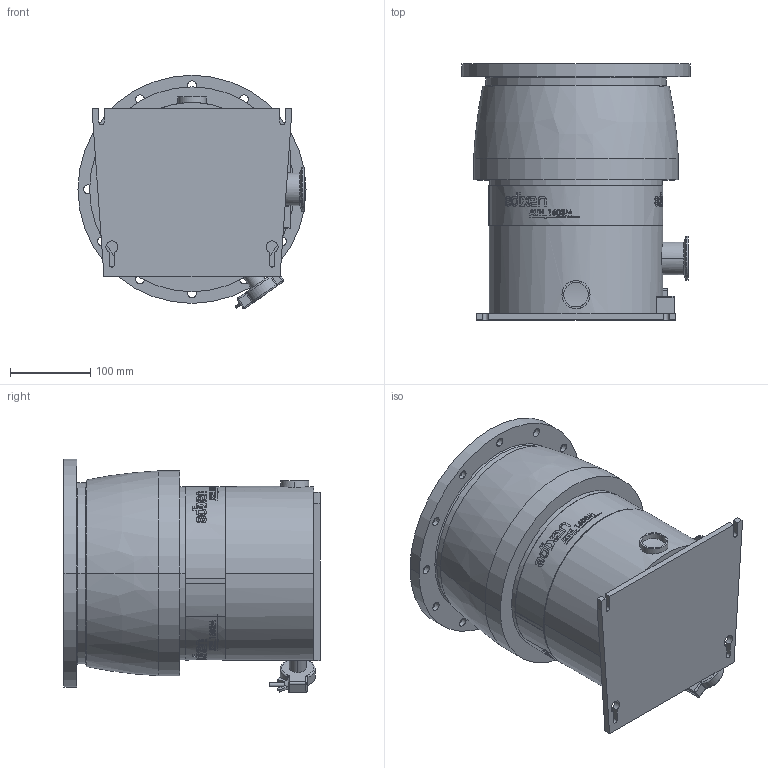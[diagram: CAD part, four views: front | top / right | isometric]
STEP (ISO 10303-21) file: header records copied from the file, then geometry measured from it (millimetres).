
FILE_DESCRIPTION((''),'2;1');
FILE_NAME('ENV-ATH1603M-Y25621XX','2010-10-28T',('RCRIADO'),(''),'PRO/ENGINEER BY PARAMETRIC TECHNOLOGY CORPORATION, 2010230','PRO/ENGINEER BY PARAMETRIC TECHNOLOGY CORPORATION, 2010230','');
FILE_SCHEMA(('CONFIG_CONTROL_DESIGN'));
Length unit declared in the file: millimetre
Products named in the file (1): ENV-ATH1603M-Y25621XX
Bounding box: 285 x 320.15 x 291.7 mm (x, y, z)
Volume: 13522223.1 mm3; surface area: 450101.8 mm2
Topology: 1 solids, 6 shells, 1094 faces, 2841 edges, 1837 vertices
Faces by surface type: bspline 443, plane 339, cylinder 234, cone 46, torus 24, sphere 8
Entity records: 43284 total; most frequent: CARTESIAN_POINT 19011, ORIENTED_EDGE 5666, DIRECTION 3849, EDGE_CURVE 2833, VERTEX_POINT 1837, VECTOR 1337, LINE 1337, AXIS2_PLACEMENT_3D 1256
